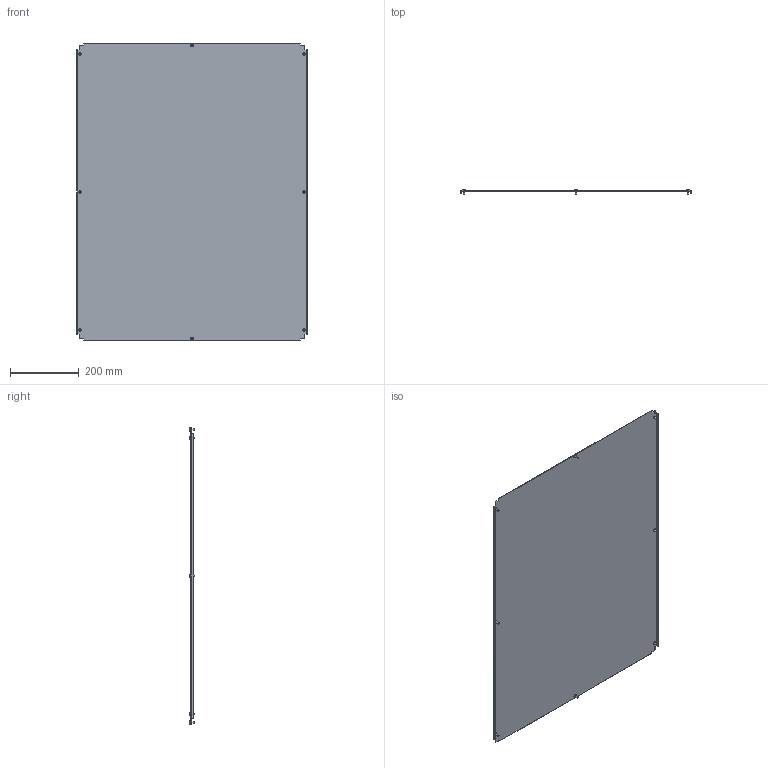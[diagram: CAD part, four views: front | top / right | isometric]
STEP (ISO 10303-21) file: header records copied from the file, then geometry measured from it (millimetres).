
FILE_DESCRIPTION (( 'STEP AP203' ), '1' );
FILE_NAME ('R5N1BP108.STEP', '2025-02-21T13:56:35', ( '' ), ( '' ), 'SwSTEP 2.0', 'SolidWorks 2022', '' );
FILE_SCHEMA (( 'CONFIG_CONTROL_DESIGN' ));
Length unit declared in the file: millimetre
Products named in the file (3): M5x12 DIN 7500 C Torx Zinc_stright; R5N1BP108; RB.1923.00.00.0_-14
Assembly tree (9 placements, depth 2):
  R5N1BP108
    RB.1923.00.00.0_-14
    M5x12 DIN 7500 C Torx Zinc_stright  x8
Bounding box: 668 x 15.56 x 862 mm (x, y, z)
Volume: 884063.3 mm3; surface area: 1182527 mm2
Topology: 9 solids, 9 shells, 206 faces, 468 edges, 288 vertices
Faces by surface type: plane 126, cylinder 32, torus 16, cone 16, sphere 8, bspline 8
Full cylindrical faces by diameter (mm): 5 x8, 9.5 x8
Entity records: 3641 total; most frequent: CARTESIAN_POINT 724, ORIENTED_EDGE 496, DIRECTION 496, EDGE_CURVE 248, VECTOR 196, LINE 196, VERTEX_POINT 166, AXIS2_PLACEMENT_3D 150
